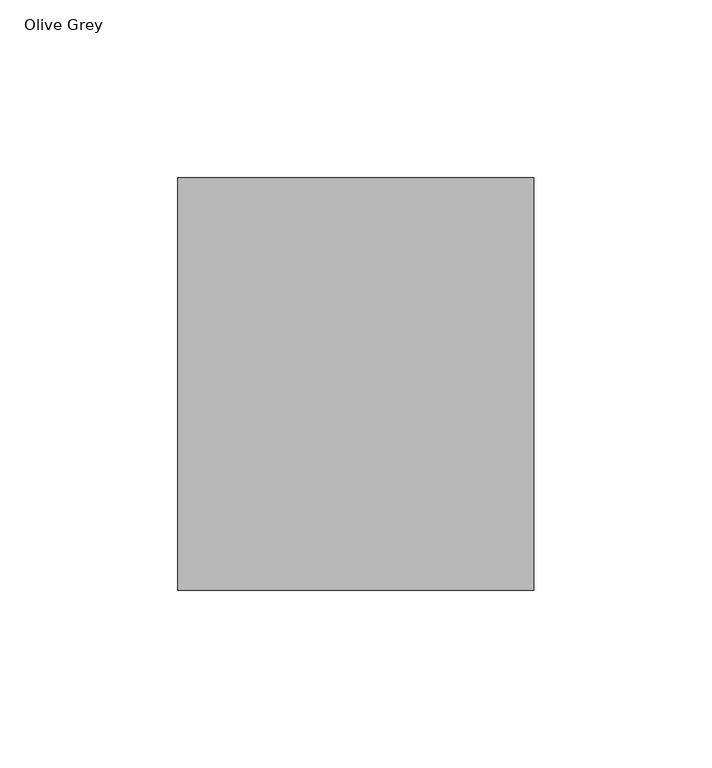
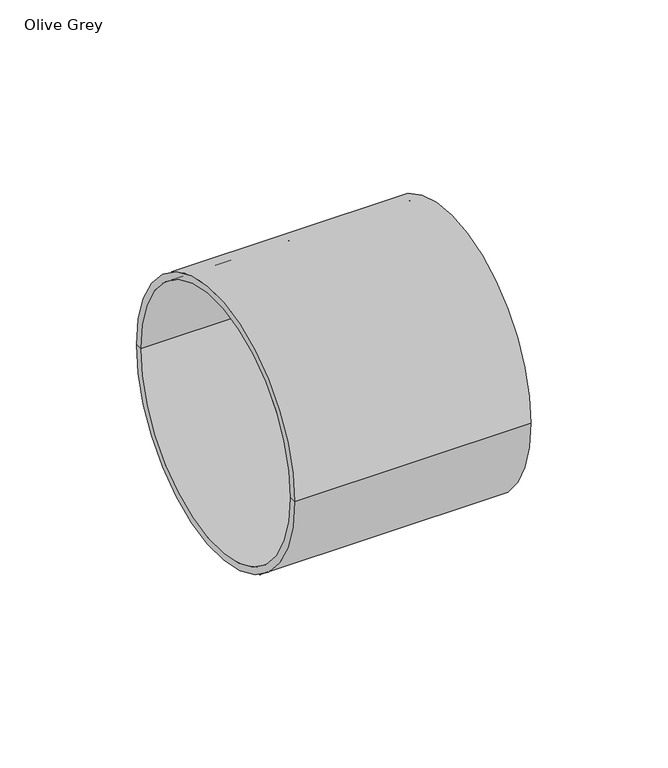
"""IFC4 building model written with IfcOpenShell, lengths in millimetres: pipe fitting geometry, Wavin_PipeFitting_OsmaCompactSoilZDoNotUsePvcSwDoubleSocket : Olive Grey."""

from ifc_helpers import new_model, si_unit, frame, origin, place, context, project, spatial, polyline, circle_curve, source, transform, mapped, element, save
from ifc_brep_helpers import plane_surface, cylinder_surface, revolved_surface, advanced_brep


def olive_grey_a489e773(model_context):
    return source(origin(), model_context, "Body", "AdvancedBrep", [
        advanced_brep(
        [(-49.0, -55.0, 0.0), (-49.0, 55.0, 0.0), (-49.0, 57.9, 0.0), (-49.0, -57.9, 0.0), (0.0, -55.0, 0.0), (0.0, 55.0, 0.0), (0.0, 0.0, 0.0), (2.0, -55.0, 0.0), (2.0, 55.0, 0.0), (2.0, 0.0, 0.0), (51.0, -55.0, 0.0), (51.0, 55.0, 0.0), (51.0, -57.9, 0.0), (51.0, 57.9, 0.0)],
        [
            (0, 1, circle_curve(frame((-49.0, 0.0, 0.0), z_axis=(1.0, 0.0, 0.0), x_axis=(0.0, 1.0, 0.0)), 55.0)),
            (1, 2),
            (2, 3, circle_curve(frame((-49.0, 0.0, 0.0), z_axis=(-1.0, 0.0, 0.0), x_axis=(0.0, 1.0, 0.0)), 57.9)),
            (3, 0),
            (1, 0, circle_curve(frame((-49.0, 0.0, 0.0), z_axis=(1.0, 0.0, 0.0), x_axis=(0.0, 1.0, 0.0)), 55.0)),
            (3, 2, circle_curve(frame((-49.0, 0.0, 0.0), z_axis=(-1.0, 0.0, 0.0), x_axis=(0.0, 1.0, 0.0)), 57.9)),
            (4, 5, circle_curve(frame((0.0, 0.0, 0.0), z_axis=(1.0, 0.0, 0.0), x_axis=(0.0, 1.0, 0.0)), 55.0)),
            (5, 1),
            (0, 4),
            (5, 4, circle_curve(frame((0.0, 0.0, 0.0), z_axis=(1.0, 0.0, 0.0), x_axis=(0.0, 1.0, 0.0)), 55.0)),
            (6, 5),
            (4, 6),
            (7, 8, circle_curve(frame((2.0, 0.0, 0.0), z_axis=(1.0, 0.0, 0.0), x_axis=(0.0, 1.0, 0.0)), 55.0)),
            (8, 9),
            (9, 7),
            (8, 7, circle_curve(frame((2.0, 0.0, 0.0), z_axis=(1.0, 0.0, 0.0), x_axis=(0.0, 1.0, 0.0)), 55.0)),
            (10, 11, circle_curve(frame((51.0, 0.0, 0.0), z_axis=(1.0, 0.0, 0.0), x_axis=(0.0, 1.0, 0.0)), 55.0)),
            (11, 8),
            (7, 10),
            (11, 10, circle_curve(frame((51.0, 0.0, 0.0), z_axis=(1.0, 0.0, 0.0), x_axis=(0.0, 1.0, 0.0)), 55.0)),
            (12, 13, circle_curve(frame((51.0, 0.0, 0.0), z_axis=(1.0, 0.0, 0.0), x_axis=(0.0, 1.0, 0.0)), 57.9)),
            (13, 11),
            (10, 12),
            (13, 12, circle_curve(frame((51.0, 0.0, 0.0), z_axis=(1.0, 0.0, 0.0), x_axis=(0.0, 1.0, 0.0)), 57.9)),
            (2, 13),
            (12, 3),
        ],
        [
            plane_surface(frame((-49.0, 0.0, 0.0), z_axis=(-1.0, 0.0, 0.0), x_axis=(0.0, 1.0, 0.0))),
            revolved_surface(polyline([(-49.0, 55.0, 0.0), (0.0, 55.0, 0.0)]), (1979.25, 0.0, 0.0), (-1.0, 0.0, 0.0)),
            plane_surface(frame((0.0, 0.0, 0.0), z_axis=(-1.0, 0.0, 0.0), x_axis=(0.0, 1.0, 0.0))),
            plane_surface(frame((2.0, 0.0, 0.0), z_axis=(1.0, 0.0, 0.0), x_axis=(0.0, 1.0, 0.0))),
            revolved_surface(polyline([(2.0, 55.0, 0.0), (51.0, 55.0, 0.0)]), (1979.25, 0.0, 0.0), (-1.0, 0.0, 0.0)),
            plane_surface(frame((51.0, 0.0, 0.0), z_axis=(1.0, 0.0, 0.0), x_axis=(0.0, 1.0, 0.0))),
            cylinder_surface(frame((1979.25, 0.0, 0.0), z_axis=(-1.0, 0.0, 0.0), x_axis=(0.0, 1.0, 0.0)), 57.9),
        ],
        [
            (0, [[1, 2, 3, 4]]),
            (0, [[5, -4, 6, -2]]),
            (1, [[7, 8, -1, 9]]),
            (1, [[10, -9, -5, -8]]),
            (2, [[11, -7, 12]]),
            (2, [[-12, -10, -11]]),
            (3, [[13, 14, 15]]),
            (3, [[16, -15, -14]]),
            (4, [[17, 18, -13, 19]]),
            (4, [[20, -19, -16, -18]]),
            (5, [[21, 22, -17, 23]]),
            (5, [[24, -23, -20, -22]]),
            (6, [[-3, 25, -21, 26]]),
            (6, [[-6, -26, -24, -25]]),
        ],
    ),
    ])


if __name__ == "__main__":
    model = new_model("IFC4")
    model_context = context("Model", 3, world=origin())
    ifc_project = project(units=[si_unit("LENGTHUNIT", "METRE", prefix="MILLI")], contexts=[model_context])
    site = spatial("IfcSite", under=ifc_project)
    building = spatial("IfcBuilding", under=site)
    placement = place(None, origin())
    olive_grey_shape = olive_grey_a489e773(model_context)
    element("IfcPipeFitting", 1, ObjectType="Wavin_PipeFitting_OsmaCompactSoilZDoNotUsePvcSwDoubleSocket : Olive Grey", at=placement, inside=building, context=model_context, shape_type="MappedRepresentation", body=[
        mapped(olive_grey_shape, transform((0.0, 0.0, 0.0), x_axis=(1.0, 0.0, 0.0), y_axis=(0.0, 1.0, 0.0), z_axis=(0.0, 0.0, 1.0))),
    ])
    save(model, "model.ifc")
